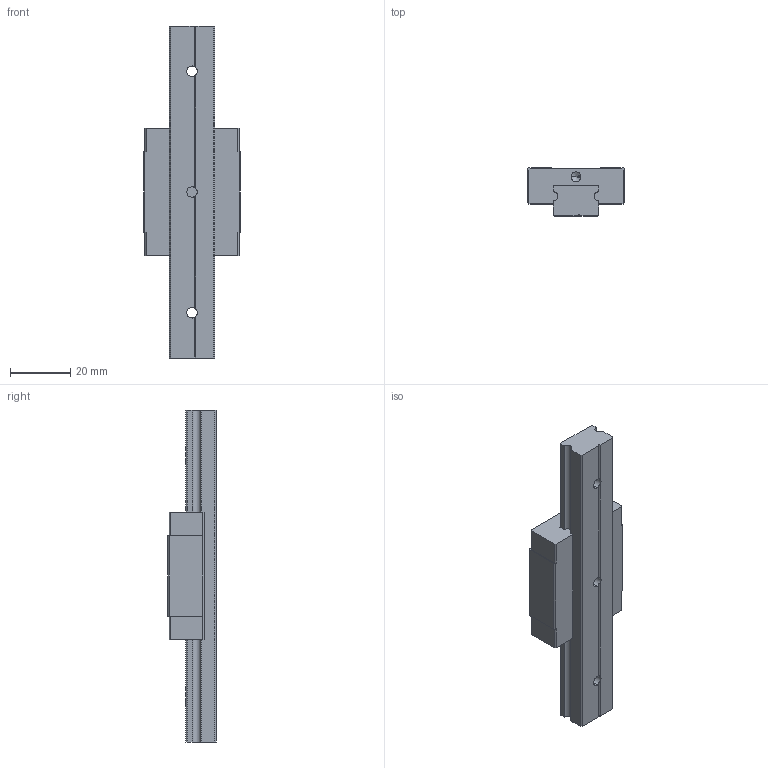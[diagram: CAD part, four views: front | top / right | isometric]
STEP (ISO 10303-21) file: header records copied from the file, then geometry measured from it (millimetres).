
FILE_DESCRIPTION (( 'STEP AP203' ), '1' );
FILE_NAME ('MGN15C_1.STEP', '2021-11-16T10:57:47', ( '' ), ( '' ), 'SwSTEP 2.0', 'SolidWorks 2019', '' );
FILE_SCHEMA (( 'CONFIG_CONTROL_DESIGN' ));
Length unit declared in the file: millimetre
Products named in the file (1): MGN15C_1
Bounding box: 32 x 16 x 110 mm (x, y, z)
Volume: 27185.1 mm3; surface area: 11615.6 mm2
Topology: 2 solids, 2 shells, 184 faces, 514 edges, 334 vertices
Faces by surface type: plane 101, cylinder 36, bspline 35, cone 12
Entity records: 6537 total; most frequent: CARTESIAN_POINT 1962, ORIENTED_EDGE 1004, DIRECTION 802, EDGE_CURVE 502, LINE 350, VECTOR 350, VERTEX_POINT 334, AXIS2_PLACEMENT_3D 226
